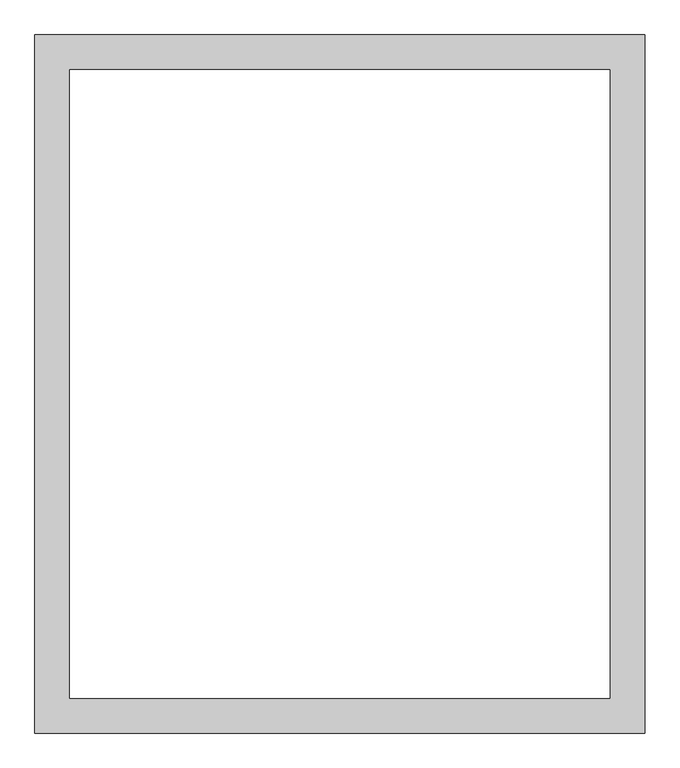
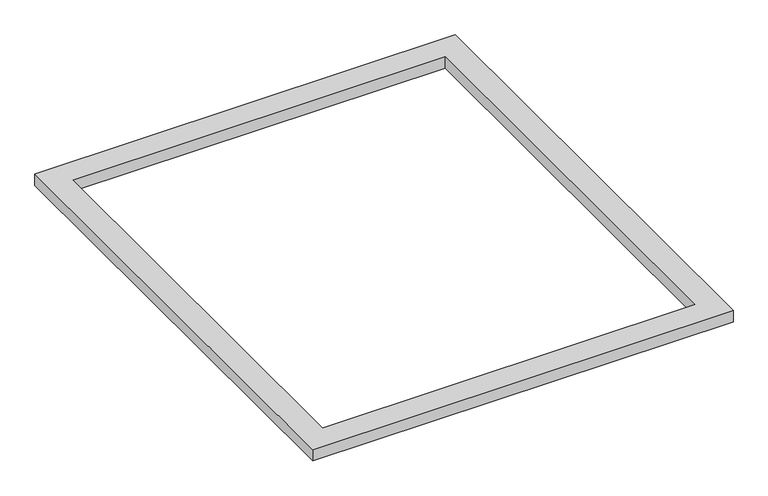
"""IFC4 building model written with IfcOpenShell, lengths in millimetres: proxy geometry, M_Cubrejuntas-Ventana-Interior-Plano : Marco de cuadro."""

import ifcopenshell
import ifcopenshell.guid

model = None  # the IFC model being written
_history = None  # IfcOwnerHistory: only IFC2X3 demands one
_inside = {}  # id of a spatial element -> (the spatial element, [elements in it])
_under = {}  # id of a project, library or spatial element -> (it, [spatial elements below it])
_declared = {}  # id of a project -> (the project, [libraries it declares])
_typed = {}  # id of a type object -> (the type object, [elements of that type])
_made_of = {}  # id of a material, layer set ... -> (it, [elements and type objects made of it])


def new_model(schema):
    """Start an empty IFC model of exactly this schema.

    Asked for "IFC4X3", IfcOpenShell would pick the latest addendum, in which some entities
    have other attributes; the version numbers below select the first issue.
    IFC2X3 requires an IfcOwnerHistory on every rooted entity: one is made here for all.
    """
    global model, _history
    if schema == "IFC4X3":
        model = ifcopenshell.file(schema_version=(4, 3, 0, 0))
    else:
        model = ifcopenshell.file(schema=schema)
    _inside.clear()
    _under.clear()
    _declared.clear()
    _typed.clear()
    _made_of.clear()
    _history = None
    if model.schema == "IFC2X3":
        org = make("IfcOrganization", Name="unknown")
        user = make(
            "IfcPersonAndOrganization",
            ThePerson=make("IfcPerson", FamilyName="unknown"),
            TheOrganization=org,
        )
        app = make(
            "IfcApplication",
            ApplicationDeveloper=org,
            Version="unknown",
            ApplicationFullName="unknown",
            ApplicationIdentifier="unknown",
        )
        _history = make(
            "IfcOwnerHistory",
            OwningUser=user,
            OwningApplication=app,
            ChangeAction="ADDED",
            CreationDate=0,
        )
    return model


def make(cls, **values):
    """One entity of the class cls with the attributes given. An attribute that is None is left unset."""
    return model.create_entity(
        cls, **{name: value for name, value in values.items() if value is not None}
    )


def rooted(cls, **values):
    """An entity with a GlobalId (a new one), such as an element, a storey or a relation."""
    return make(cls, GlobalId=ifcopenshell.guid.new(), OwnerHistory=_history, **values)


def si_unit(unit_type, name, prefix=None):
    """IfcSIUnit, for example si_unit("LENGTHUNIT", "METRE", prefix="MILLI")."""
    return make("IfcSIUnit", UnitType=unit_type, Prefix=prefix, Name=name)


def assignment(units):
    """IfcUnitAssignment: the units of a project."""
    return None if units is None else make("IfcUnitAssignment", Units=units)


def point(xyz):
    """IfcCartesianPoint."""
    return None if xyz is None else make("IfcCartesianPoint", Coordinates=xyz)


def direction(xyz):
    """IfcDirection."""
    return None if xyz is None else make("IfcDirection", DirectionRatios=xyz)


def frame(location, z_axis=None, x_axis=None):
    """IfcAxis2Placement3D, a coordinate frame: its origin and axes. An axis left out is left unset."""
    return make(
        "IfcAxis2Placement3D",
        Location=point(location),
        Axis=direction(z_axis),
        RefDirection=direction(x_axis),
    )


def origin():
    """The frame at (0, 0, 0) with its axes left unset."""
    return frame((0.0, 0.0, 0.0))


def origin_with_axes():
    """The frame at (0, 0, 0) with the z axis (0, 0, 1) and the x axis (1, 0, 0) written out."""
    return frame((0.0, 0.0, 0.0), z_axis=(0.0, 0.0, 1.0), x_axis=(1.0, 0.0, 0.0))


def place(relative_to, where):
    """IfcLocalPlacement: puts the frame where relative to a parent placement (None: the world)."""
    return make(
        "IfcLocalPlacement", PlacementRelTo=relative_to, RelativePlacement=where
    )


def context(
    kind, dimensions, precision=None, world=None, true_north=None, identifier=None
):
    """IfcGeometricRepresentationContext, for example the 3D "Model" context."""
    return make(
        "IfcGeometricRepresentationContext",
        ContextIdentifier=identifier,
        ContextType=kind,
        CoordinateSpaceDimension=dimensions,
        Precision=precision,
        WorldCoordinateSystem=world,
        TrueNorth=true_north,
    )


def project(units=None, contexts=None):
    """IfcProject with its units and contexts."""
    return rooted(
        "IfcProject",
        Name="project",
        RepresentationContexts=contexts,
        UnitsInContext=assignment(units),
    )


def spatial(cls, under=None, at=None, **own):
    """A site, building, storey or space (cls), placed at a placement, below another one or the project."""
    s = rooted(cls, ObjectPlacement=at, **own)
    if under is not None:
        _under.setdefault(under.id(), (under, []))[1].append(s)
    return s


def polyline(points):
    """IfcPolyline through the points."""
    return make("IfcPolyline", Points=[point(p) for p in points])


def outline(outer, holes=None, kind="AREA"):
    """IfcArbitraryClosedProfileDef: a profile drawn as a closed curve; with holes, ...WithVoids."""
    if holes is None:
        return make("IfcArbitraryClosedProfileDef", ProfileType=kind, OuterCurve=outer)
    return make(
        "IfcArbitraryProfileDefWithVoids",
        ProfileType=kind,
        OuterCurve=outer,
        InnerCurves=holes,
    )


def extrude(swept, where, along, depth):
    """IfcExtrudedAreaSolid: the profile swept, set in the frame where, extruded along a direction by depth."""
    return make(
        "IfcExtrudedAreaSolid",
        SweptArea=swept,
        Position=where,
        ExtrudedDirection=direction(along),
        Depth=depth,
    )


def shape(context_of_items, identifier, shape_type, items):
    """IfcShapeRepresentation: the items that make up one representation, for example the "Body"."""
    return make(
        "IfcShapeRepresentation",
        ContextOfItems=context_of_items,
        RepresentationIdentifier=identifier,
        RepresentationType=shape_type,
        Items=items,
    )


def source(mapping_origin, context_of_items, identifier, shape_type, items):
    """IfcRepresentationMap: a shape defined once, which mapped items show again and again."""
    return make(
        "IfcRepresentationMap",
        MappingOrigin=mapping_origin,
        MappedRepresentation=shape(context_of_items, identifier, shape_type, items),
    )


def transform(
    local_origin,
    x_axis=None,
    y_axis=None,
    z_axis=None,
    scale=None,
    scale2=None,
    scale3=None,
    uniform=True,
):
    """IfcCartesianTransformationOperator3D, or its non-uniform kind. x_axis, y_axis, z_axis: its Axis1, 2, 3."""
    if uniform:
        return make(
            "IfcCartesianTransformationOperator3D",
            Axis1=direction(x_axis),
            Axis2=direction(y_axis),
            LocalOrigin=point(local_origin),
            Scale=scale,
            Axis3=direction(z_axis),
        )
    return make(
        "IfcCartesianTransformationOperator3DnonUniform",
        Axis1=direction(x_axis),
        Axis2=direction(y_axis),
        LocalOrigin=point(local_origin),
        Scale=scale,
        Axis3=direction(z_axis),
        Scale2=scale2,
        Scale3=scale3,
    )


def mapped(mapping_source, mapping_target):
    """IfcMappedItem: shows the shape of a source again, moved by a transform."""
    return make(
        "IfcMappedItem", MappingSource=mapping_source, MappingTarget=mapping_target
    )


def made_of(thing, what):
    """Note that an element or type object is made of a material, layer set ...; save() writes the relation."""
    if what is not None:
        _made_of.setdefault(what.id(), (what, []))[1].append(thing)
    return thing


def element(
    cls,
    number,
    at=None,
    inside=None,
    cuts=None,
    type_object=None,
    material=None,
    context=None,
    identifier="Body",
    shape_type=None,
    held_by="IfcProductDefinitionShape",
    body=None,
    shapes=None,
    **own,
):
    """One element of the class cls, such as IfcWall. Its Tag is "e" and its number.

    at: its placement. inside: the storey or other place that contains it. cuts: it is an
    opening in that element (IfcRelVoidsElement). A single representation is given by context,
    identifier, shape_type and body (its items); several are given by shapes. held_by: the class
    of the entity that holds the representations. save() writes the other relations.
    """
    e = rooted(cls, Tag="e%d" % number, ObjectPlacement=at, **own)
    if body is not None:
        shapes = [shape(context, identifier, shape_type, body)]
    if shapes is not None:
        e.Representation = make(held_by, Representations=shapes)
    if inside is not None:
        _inside.setdefault(inside.id(), (inside, []))[1].append(e)
    if cuts is not None:
        rooted(
            "IfcRelVoidsElement", RelatingBuildingElement=cuts, RelatedOpeningElement=e
        )
    if type_object is not None:
        _typed.setdefault(type_object.id(), (type_object, []))[1].append(e)
    return made_of(e, material)


def aggregate(whole, parts):
    """IfcRelAggregates: a whole, such as a stair, and the parts it consists of."""
    return rooted("IfcRelAggregates", RelatingObject=whole, RelatedObjects=parts)


def save(model, path):
    """Write the relations noted so far, then the file.

    IfcRelAggregates (storeys below a building ...), IfcRelContainedInSpatialStructure (elements
    in a storey), IfcRelDefinesByType, IfcRelAssociatesMaterial and IfcRelDeclares: one each for
    every whole, place, type object, material and project.
    """
    for whole, parts in _under.values():
        aggregate(whole, parts)
    for where, things in _inside.values():
        rooted(
            "IfcRelContainedInSpatialStructure",
            RelatedElements=things,
            RelatingStructure=where,
        )
    for kind, things in _typed.values():
        rooted("IfcRelDefinesByType", RelatedObjects=things, RelatingType=kind)
    for what, things in _made_of.values():
        rooted("IfcRelAssociatesMaterial", RelatedObjects=things, RelatingMaterial=what)
    for by, libraries in _declared.values():
        rooted("IfcRelDeclares", RelatingContext=by, RelatedDefinitions=libraries)
    model.write(path)


def generic_models_88e86241(model_context):
    return source(origin(), model_context, "Body", "SweptSolid", [
        extrude(outline(polyline([(522.3, 47.3), (522.3, -1147.3), (-522.3, -1147.3), (-522.3, 47.3), (522.3, 47.3)]), holes=[polyline([(462.3, -12.7), (-462.3, -12.7), (-462.3, -1087.3), (462.3, -1087.3), (462.3, -12.7)])]), origin_with_axes(), (0.0, 0.0, 1.0), 30.0),
    ])


if __name__ == "__main__":
    model = new_model("IFC4")
    model_context = context("Model", 3, world=origin())
    ifc_project = project(units=[si_unit("LENGTHUNIT", "METRE", prefix="MILLI")], contexts=[model_context])
    site = spatial("IfcSite", under=ifc_project)
    building = spatial("IfcBuilding", under=site)
    placement = place(None, origin())
    generic_models_shape = generic_models_88e86241(model_context)
    element("IfcBuildingElementProxy", 1, Name="M_Cubrejuntas-Ventana-Interior-Plano : Marco de cuadro", ObjectType="M_Cubrejuntas-Ventana-Interior-Plano : Marco de cuadro", at=placement, inside=building, context=model_context, shape_type="MappedRepresentation", body=[
        mapped(generic_models_shape, transform((0.0, 0.0, 0.0), x_axis=(1.0, 0.0, 0.0), y_axis=(0.0, 1.0, 0.0), z_axis=(0.0, 0.0, 1.0))),
    ])
    save(model, "model.ifc")
